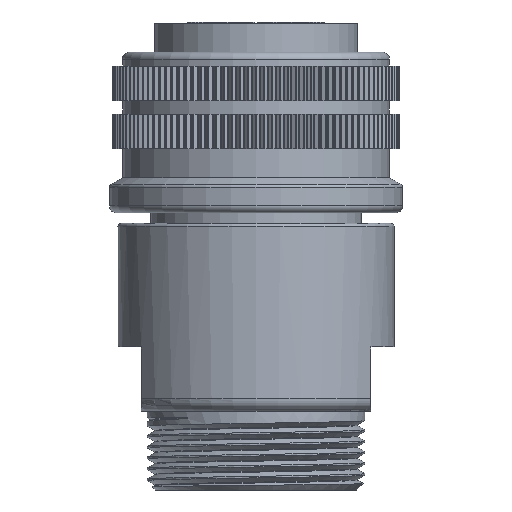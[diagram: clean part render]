
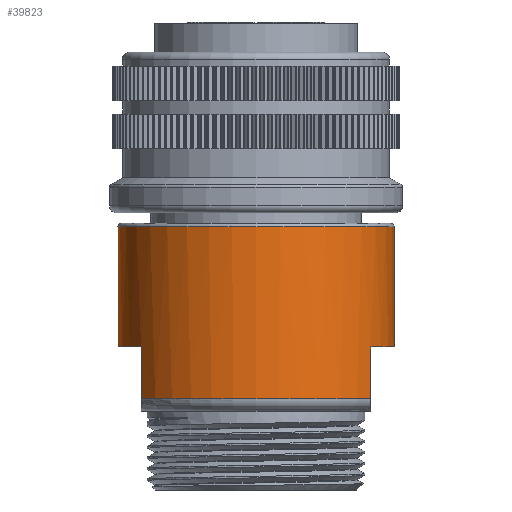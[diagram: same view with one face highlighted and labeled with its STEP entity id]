
A CAD part, front view. The second image highlights one B-rep face of the part: STEP entity #39823.
In plain terms, the highlighted cylindrical face has radius 16.05 mm (diameter 32.1 mm), a full revolution.
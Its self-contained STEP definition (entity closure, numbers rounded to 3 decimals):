
#1023 = CARTESIAN_POINT ( 'NONE',  ( 1.558, 15.974, -29.943 ) ) ;
#1591 = CARTESIAN_POINT ( 'NONE',  ( 1.102, 16.012, -30.601 ) ) ;
#2590 = VERTEX_POINT ( 'NONE', #55931 ) ;
#3112 = AXIS2_PLACEMENT_3D ( 'NONE', #21068, #13892, #61195 ) ;
#4830 = LINE ( 'NONE', #76440, #53627 ) ;
#5084 = LINE ( 'NONE', #63322, #55970 ) ;
#6210 = ORIENTED_EDGE ( 'NONE', *, *, #20815, .T. ) ;
#7225 = EDGE_CURVE ( 'NONE', #53962, #73465, #13356, .T. ) ;
#7405 = CARTESIAN_POINT ( 'NONE',  ( 0., 16.05, -31.049 ) ) ;
#7702 = CIRCLE ( 'NONE', #3112, 16.05 ) ;
#7985 = CARTESIAN_POINT ( 'NONE',  ( 0.798, 16.033, -30.9 ) ) ;
#8283 = CARTESIAN_POINT ( 'NONE',  ( -1.102, 16.012, -30.601 ) ) ;
#8643 = AXIS2_PLACEMENT_3D ( 'NONE', #27308, #33448, #79959 ) ;
#10094 = DIRECTION ( 'NONE',  ( -1., 0., 0. ) ) ;
#12008 = CARTESIAN_POINT ( 'NONE',  ( 0., 16.05, -31.049 ) ) ;
#13356 = LINE ( 'NONE', #30339, #18459 ) ;
#13892 = DIRECTION ( 'NONE',  ( 0., 0., -1. ) ) ;
#14368 = CARTESIAN_POINT ( 'NONE',  ( 1.103, 16.012, -28.439 ) ) ;
#14646 = CARTESIAN_POINT ( 'NONE',  ( 0.43, 16.05, -27.991 ) ) ;
#15029 = CARTESIAN_POINT ( 'NONE',  ( 0., 0., -37.59 ) ) ;
#15202 = CARTESIAN_POINT ( 'NONE',  ( -1.407, 15.991, -30.303 ) ) ;
#15906 = ORIENTED_EDGE ( 'NONE', *, *, #31302, .F. ) ;
#16068 = CIRCLE ( 'NONE', #49468, 16.05 ) ;
#16859 = DIRECTION ( 'NONE',  ( 0., 0., -1. ) ) ;
#17348 = AXIS2_PLACEMENT_3D ( 'NONE', #85109, #25503, #52832 ) ;
#18459 = VECTOR ( 'NONE', #78016, 1000. ) ;
#19901 = CARTESIAN_POINT ( 'NONE',  ( 0., 0., -43.59 ) ) ;
#20685 = CARTESIAN_POINT ( 'NONE',  ( 0.43, 16.05, -31.049 ) ) ;
#20815 = EDGE_CURVE ( 'NONE', #73465, #28734, #53874, .T. ) ;
#21068 = CARTESIAN_POINT ( 'NONE',  ( 0., 0., -37.59 ) ) ;
#21551 = CARTESIAN_POINT ( 'NONE',  ( 1.559, 15.974, -29.099 ) ) ;
#22717 = EDGE_CURVE ( 'NONE', #32448, #28734, #4830, .T. ) ;
#23076 = DIRECTION ( 'NONE',  ( 1., 0., 0. ) ) ;
#23089 = FACE_BOUND ( 'NONE', #44419, .T. ) ;
#24696 = CARTESIAN_POINT ( 'NONE',  ( 16.05, 0., -23.62 ) ) ;
#25295 = CARTESIAN_POINT ( 'NONE',  ( -13.365, 8.887, -37.59 ) ) ;
#25305 = CARTESIAN_POINT ( 'NONE',  ( 13.365, -8.887, -37.59 ) ) ;
#25503 = DIRECTION ( 'NONE',  ( 0., 0., 1. ) ) ;
#26597 = CARTESIAN_POINT ( 'NONE',  ( -13.365, 8.887, -43.59 ) ) ;
#27308 = CARTESIAN_POINT ( 'NONE',  ( 0., 0., -43.59 ) ) ;
#27936 = CARTESIAN_POINT ( 'NONE',  ( -1.103, 16.012, -28.439 ) ) ;
#28505 = CARTESIAN_POINT ( 'NONE',  ( -0.798, 16.033, -30.9 ) ) ;
#28734 = VERTEX_POINT ( 'NONE', #26597 ) ;
#29734 = VERTEX_POINT ( 'NONE', #24696 ) ;
#30339 = CARTESIAN_POINT ( 'NONE',  ( 13.365, 8.887, -37.59 ) ) ;
#30753 = VERTEX_POINT ( 'NONE', #12008 ) ;
#31302 = EDGE_CURVE ( 'NONE', #29734, #29734, #60634, .T. ) ;
#32448 = VERTEX_POINT ( 'NONE', #25295 ) ;
#32708 = DIRECTION ( 'NONE',  ( 0., 0., 1. ) ) ;
#32849 = ORIENTED_EDGE ( 'NONE', *, *, #61901, .F. ) ;
#33283 = DIRECTION ( 'NONE',  ( 1., 0., 0. ) ) ;
#33448 = DIRECTION ( 'NONE',  ( 0., 0., 1. ) ) ;
#34512 = VECTOR ( 'NONE', #53599, 1000. ) ;
#34660 = CARTESIAN_POINT ( 'NONE',  ( 0., 16.05, -27.991 ) ) ;
#34743 = EDGE_CURVE ( 'NONE', #56341, #2590, #5084, .T. ) ;
#34935 = CARTESIAN_POINT ( 'NONE',  ( 1.407, 15.991, -30.303 ) ) ;
#35238 = CARTESIAN_POINT ( 'NONE',  ( 0., 16.05, -31.049 ) ) ;
#36321 = VERTEX_POINT ( 'NONE', #74088 ) ;
#37727 = ORIENTED_EDGE ( 'NONE', *, *, #22717, .F. ) ;
#38476 = EDGE_CURVE ( 'NONE', #53962, #56341, #16068, .T. ) ;
#39823 = ADVANCED_FACE ( 'NONE', ( #23089, #82446, #55405 ), #60561, .T. ) ;
#41350 = CARTESIAN_POINT ( 'NONE',  ( -1.559, 15.974, -29.521 ) ) ;
#43751 = ORIENTED_EDGE ( 'NONE', *, *, #44814, .T. ) ;
#44419 = EDGE_LOOP ( 'NONE', ( #84799 ) ) ;
#44814 = EDGE_CURVE ( 'NONE', #36321, #2590, #77924, .T. ) ;
#47619 = ORIENTED_EDGE ( 'NONE', *, *, #38476, .F. ) ;
#48053 = CARTESIAN_POINT ( 'NONE',  ( -1.559, 15.974, -29.942 ) ) ;
#48351 = CARTESIAN_POINT ( 'NONE',  ( -1.558, 15.974, -29.099 ) ) ;
#49302 = CARTESIAN_POINT ( 'NONE',  ( 0., 0., -17.014 ) ) ;
#49468 = AXIS2_PLACEMENT_3D ( 'NONE', #15029, #63178, #10094 ) ;
#49577 = DIRECTION ( 'NONE',  ( 0., 0., 1. ) ) ;
#49932 = EDGE_CURVE ( 'NONE', #82480, #36321, #52192, .T. ) ;
#52192 = LINE ( 'NONE', #86180, #34512 ) ;
#52396 = ORIENTED_EDGE ( 'NONE', *, *, #49932, .T. ) ;
#52832 = DIRECTION ( 'NONE',  ( 1., 0., 0. ) ) ;
#53599 = DIRECTION ( 'NONE',  ( 0., 0., -1. ) ) ;
#53627 = VECTOR ( 'NONE', #83443, 1000. ) ;
#53874 = CIRCLE ( 'NONE', #64722, 16.05 ) ;
#53962 = VERTEX_POINT ( 'NONE', #59593 ) ;
#54408 = CARTESIAN_POINT ( 'NONE',  ( 0.798, 16.033, -28.14 ) ) ;
#55284 = ORIENTED_EDGE ( 'NONE', *, *, #7225, .T. ) ;
#55405 = FACE_OUTER_BOUND ( 'NONE', #68378, .T. ) ;
#55931 = CARTESIAN_POINT ( 'NONE',  ( 13.365, -8.887, -43.59 ) ) ;
#55970 = VECTOR ( 'NONE', #16859, 1000. ) ;
#56341 = VERTEX_POINT ( 'NONE', #25305 ) ;
#59593 = CARTESIAN_POINT ( 'NONE',  ( 13.365, 8.887, -37.59 ) ) ;
#60561 = CYLINDRICAL_SURFACE ( 'NONE', #82440, 16.05 ) ;
#60634 = CIRCLE ( 'NONE', #17348, 16.05 ) ;
#61087 = CARTESIAN_POINT ( 'NONE',  ( -0.43, 16.05, -27.99 ) ) ;
#61195 = DIRECTION ( 'NONE',  ( -1., 0., 0. ) ) ;
#61901 = EDGE_CURVE ( 'NONE', #82480, #32448, #7702, .T. ) ;
#63101 = EDGE_LOOP ( 'NONE', ( #43751, #68660, #47619, #55284, #6210, #37727, #32849, #52396 ) ) ;
#63178 = DIRECTION ( 'NONE',  ( 0., 0., -1. ) ) ;
#63322 = CARTESIAN_POINT ( 'NONE',  ( 13.365, -8.887, -37.59 ) ) ;
#64722 = AXIS2_PLACEMENT_3D ( 'NONE', #19901, #32708, #33283 ) ;
#67196 = CARTESIAN_POINT ( 'NONE',  ( 1.559, 15.974, -29.521 ) ) ;
#67773 = CARTESIAN_POINT ( 'NONE',  ( -0.799, 16.033, -28.141 ) ) ;
#68378 = EDGE_LOOP ( 'NONE', ( #15906 ) ) ;
#68660 = ORIENTED_EDGE ( 'NONE', *, *, #34743, .F. ) ;
#71272 = B_SPLINE_CURVE_WITH_KNOTS ( 'NONE', 3,
 ( #7405, #20685, #7985, #1591, #34935, #1023, #67196, #21551, #81445, #14368, #54408, #14646, #34660, #61087, #67773, #27936, #81163, #48351, #41350, #48053, #15202, #8283, #28505, #75024, #35238 ),
 .UNSPECIFIED., .T., .F.,
 ( 4, 3, 3, 3, 3, 3, 3, 3, 4 ),
 ( 0., 0.125, 0.25, 0.375, 0.5, 0.625, 0.75, 0.875, 1. ),
 .UNSPECIFIED. ) ;
#73465 = VERTEX_POINT ( 'NONE', #77755 ) ;
#74088 = CARTESIAN_POINT ( 'NONE',  ( -13.365, -8.887, -43.59 ) ) ;
#74571 = CARTESIAN_POINT ( 'NONE',  ( -13.365, -8.887, -37.59 ) ) ;
#75024 = CARTESIAN_POINT ( 'NONE',  ( -0.43, 16.05, -31.05 ) ) ;
#76440 = CARTESIAN_POINT ( 'NONE',  ( -13.365, 8.887, -37.59 ) ) ;
#77755 = CARTESIAN_POINT ( 'NONE',  ( 13.365, 8.887, -43.59 ) ) ;
#77924 = CIRCLE ( 'NONE', #8643, 16.05 ) ;
#78016 = DIRECTION ( 'NONE',  ( 0., 0., -1. ) ) ;
#78768 = EDGE_CURVE ( 'NONE', #30753, #30753, #71272, .T. ) ;
#79959 = DIRECTION ( 'NONE',  ( 1., 0., 0. ) ) ;
#81163 = CARTESIAN_POINT ( 'NONE',  ( -1.407, 15.991, -28.737 ) ) ;
#81445 = CARTESIAN_POINT ( 'NONE',  ( 1.407, 15.991, -28.738 ) ) ;
#82440 = AXIS2_PLACEMENT_3D ( 'NONE', #49302, #49577, #23076 ) ;
#82446 = FACE_OUTER_BOUND ( 'NONE', #63101, .T. ) ;
#82480 = VERTEX_POINT ( 'NONE', #74571 ) ;
#83443 = DIRECTION ( 'NONE',  ( 0., 0., -1. ) ) ;
#84799 = ORIENTED_EDGE ( 'NONE', *, *, #78768, .T. ) ;
#85109 = CARTESIAN_POINT ( 'NONE',  ( 0., 0., -23.62 ) ) ;
#86180 = CARTESIAN_POINT ( 'NONE',  ( -13.365, -8.887, -37.59 ) ) ;
